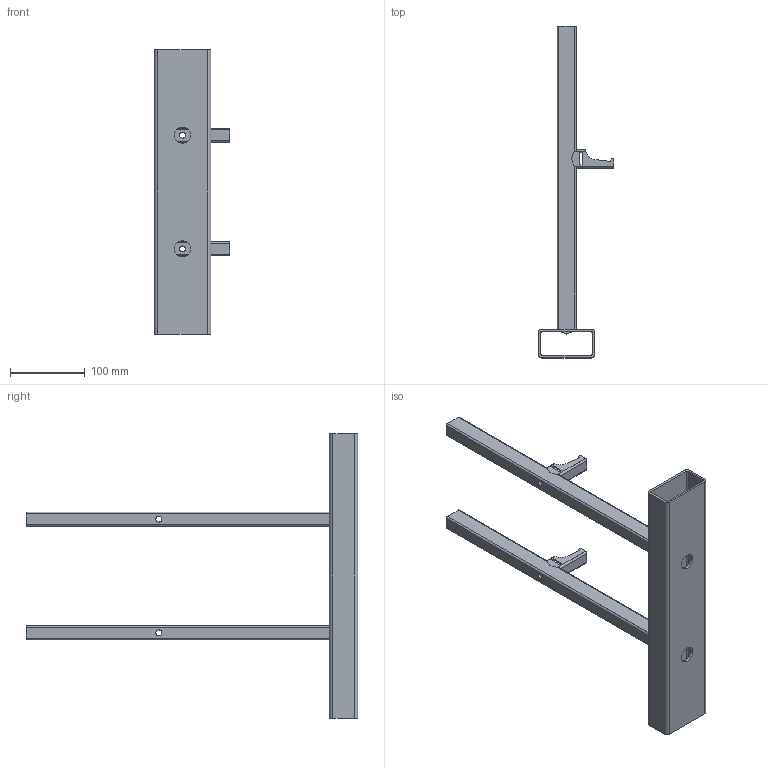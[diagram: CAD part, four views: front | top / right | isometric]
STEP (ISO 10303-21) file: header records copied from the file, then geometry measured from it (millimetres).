
FILE_DESCRIPTION(('FreeCAD Model'),'2;1');
FILE_NAME('ipad_stand_asm.STEP','2017-11-17T02:28:17',('FreeCAD'),( 'FreeCAD'),'Open CASCADE STEP processor 6.8','FreeCAD','Unknown');
FILE_SCHEMA(('AUTOMOTIVE_DESIGN_CC2 { 1 2 10303 214 -1 1 5 4 }'));
Length unit declared in the file: millimetre
Products named in the file (6): Open CASCADE STEP translator 6.8 1; Open CASCADE STEP translator 6.8 1.1; Open CASCADE STEP translator 6.8 1.2; Open CASCADE STEP translator 6.8 1.3; Open CASCADE STEP translator 6.8 1.4; Open CASCADE STEP translator 6.8 1.5
Assembly tree (5 placements, depth 2):
  Open CASCADE STEP translator 6.8 1
    Open CASCADE STEP translator 6.8 1.1
    Open CASCADE STEP translator 6.8 1.2
    Open CASCADE STEP translator 6.8 1.3
    Open CASCADE STEP translator 6.8 1.4
    Open CASCADE STEP translator 6.8 1.5
Bounding box: 101.6 x 444.5 x 381 mm (x, y, z)
Volume: 365943.9 mm3; surface area: 301823.7 mm2
Topology: 5 solids, 5 shells, 216 faces, 660 edges, 440 vertices
Faces by surface type: plane 158, cylinder 58
Full cylindrical faces by diameter (mm): 7.938 x4, 8.026 x2, 21.59 x2
Entity records: 16710 total; most frequent: CARTESIAN_POINT 3966, DIRECTION 2210, LINE 1500, VECTOR 1500, ORIENTED_EDGE 1320, PCURVE 1320, DEFINITIONAL_REPRESENTATION 1320, EDGE_CURVE 660
